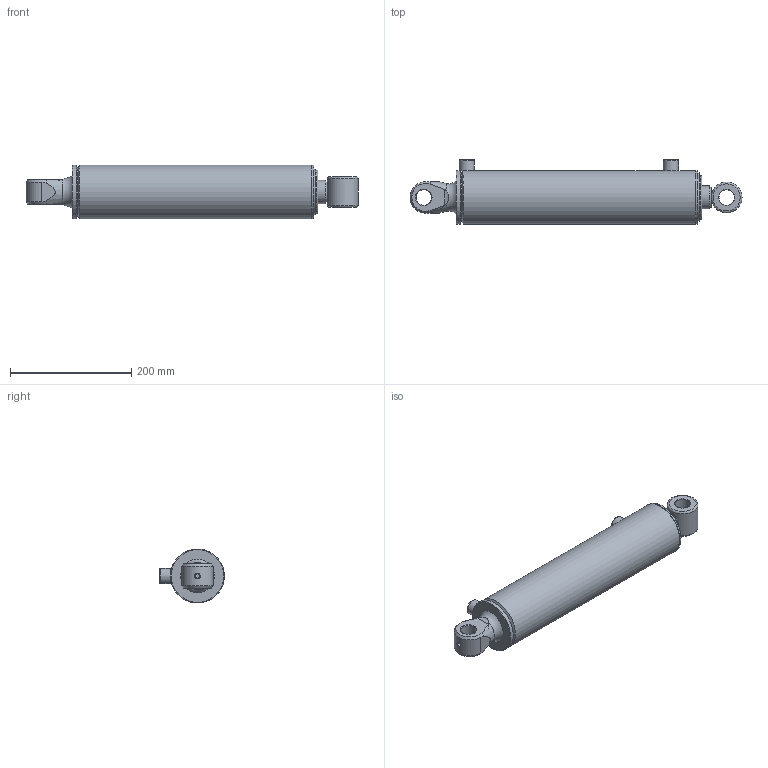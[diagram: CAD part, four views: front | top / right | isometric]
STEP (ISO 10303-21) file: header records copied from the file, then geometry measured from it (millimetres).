
FILE_DESCRIPTION(/* description */ ('Alibre Inc.'),/* implementation_level */ '2;1');
FILE_NAME(/* name */ 'export0',/* time_stamp */ '2016-08-16T10:00:20+12:00',/* author */ (''),/* organization */ (''),/* preprocessor_version */ 'ST-DEVELOPER v14',/* originating_system */ 'Alibre',/* authorisation */ '');
FILE_SCHEMA (('AUTOMOTIVE_DESIGN'));
Length unit declared in the file: centimetre
Bounding box: 548.13 x 106.9 x 88.9 mm (x, y, z)
Volume: 1610396.8 mm3; surface area: 368146.9 mm2
Topology: 12 solids, 12 shells, 157 faces, 332 edges, 209 vertices
Faces by surface type: cylinder 61, plane 57, cone 23, torus 13, sphere 2, bspline 1
Full cylindrical faces by diameter (mm): 7 x1, 8.3 x2, 8.8 x1, 9.525 x2, 15.25 x2, 23 x1, 23.622 x1, 25 x2, 25.4 x2, 25.451 x1, 38.1 x2, 38.18 x2, 44.45 x1, 46.9 x2, 47.62 x2, 50.8 x1, 60.33 x1, 69.2 x1, 70.36 x1, 71.6 x2, 72.57 x2, 72.87 x1, 74.83 x2, 76.09 x2, 76.1 x1, 76.2 x2, 79.4 x1, 88.9 x3
Entity records: 4365 total; most frequent: CARTESIAN_POINT 1210, DIRECTION 599, ORIENTED_EDGE 456, AXIS2_PLACEMENT_3D 310, FACE_BOUND 271, EDGE_LOOP 269, EDGE_CURVE 228, VERTEX_POINT 191
